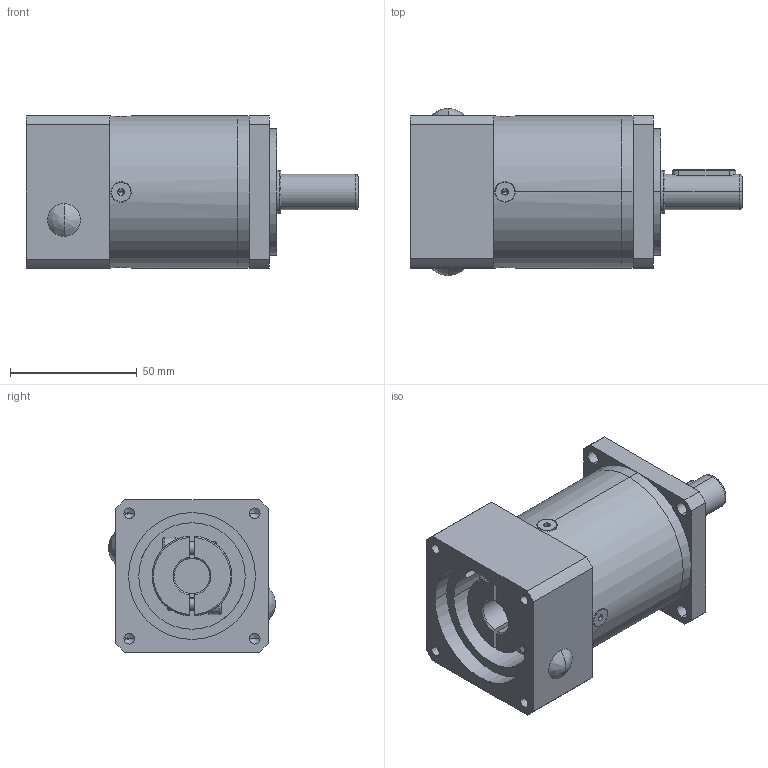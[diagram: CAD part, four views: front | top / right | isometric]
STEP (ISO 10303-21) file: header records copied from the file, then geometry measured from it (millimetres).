
FILE_DESCRIPTION (( 'STEP AP214' ), '1' );
FILE_NAME ('PLF-060-L2-S2-P2 14-50-70-M5.STEP', '2023-08-16T05:47:23', ( '微软用户' ), ( '微软中国' ), 'SwSTEP 2.0', 'SolidWorks 2018', '' );
FILE_SCHEMA (( 'AUTOMOTIVE_DESIGN' ));
Length unit declared in the file: millimetre
Products named in the file (8): PLF-060怀堤傷裔-俋倛; PLF-060薊粣ん-俋倛14; hexagon socket countersunk head screws gb_GB_FASTENER_SCREWS_HSCHS M4X8-N; PLF-060输入端盖-外形50-M5-70; hexagon socket head cap screws gb_GB_FASTENER_SCREWS_HSHCS M5X16-N; PLF-060二级齿圈-外形; PLF-060-L2-S2-P2 14-50-70-M5; PLF-060黑裔9
Assembly tree (12 placements, depth 2):
  PLF-060-L2-S2-P2 14-50-70-M5
    PLF-060怀堤傷裔-俋倛
    PLF-060二级齿圈-外形
    PLF-060输入端盖-外形50-M5-70
    PLF-060薊粣ん-俋倛14
    hexagon socket head cap screws gb_GB_FASTENER_SCREWS_HSHCS M5X16-N  x2
    PLF-060黑裔9  x2
    hexagon socket countersunk head screws gb_GB_FASTENER_SCREWS_HSCHS M4X8-N  x4
Bounding box: 131 x 66 x 60 mm (x, y, z)
Volume: 185313.4 mm3; surface area: 59864.7 mm2
Topology: 14 solids, 14 shells, 380 faces, 908 edges, 551 vertices
Faces by surface type: plane 153, cylinder 130, cone 65, bspline 32
Entity records: 8755 total; most frequent: CARTESIAN_POINT 2451, DIRECTION 1293, ORIENTED_EDGE 1204, EDGE_CURVE 602, AXIS2_PLACEMENT_3D 511, VERTEX_POINT 382, EDGE_LOOP 298, LINE 271
